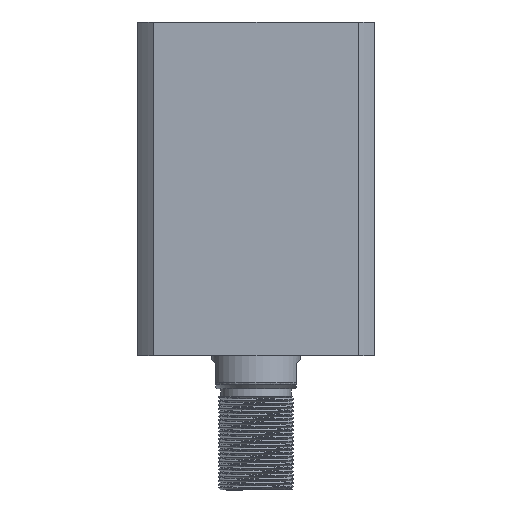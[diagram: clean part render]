
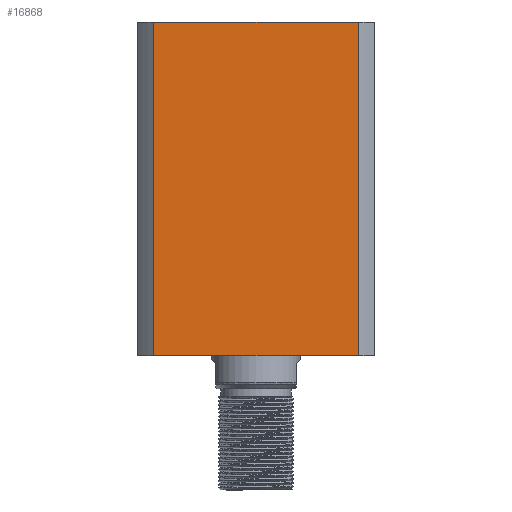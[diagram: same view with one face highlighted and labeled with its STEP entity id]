
A CAD part, front view. The second image highlights one B-rep face of the part: STEP entity #16868.
In plain terms, the highlighted planar face has unit normal (0, -1, 0) as drawn and (0, 1, 0) by its records, which use the part's own axes.
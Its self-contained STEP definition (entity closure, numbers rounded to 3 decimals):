
#1178 = CARTESIAN_POINT ( 'NONE',  ( 40.435, 47., 132. ) ) ;
#2001 = EDGE_CURVE ( 'NONE', #12676, #8303, #16113, .T. ) ;
#3441 = AXIS2_PLACEMENT_3D ( 'NONE', #19428, #14494, #4018 ) ;
#4018 = DIRECTION ( 'NONE',  ( 0., 0., -1. ) ) ;
#4598 = LINE ( 'NONE', #5220, #17903 ) ;
#5067 = ORIENTED_EDGE ( 'NONE', *, *, #8946, .F. ) ;
#5220 = CARTESIAN_POINT ( 'NONE',  ( -40.435, 47., -2868. ) ) ;
#6053 = VECTOR ( 'NONE', #20727, 1000. ) ;
#7130 = LINE ( 'NONE', #10428, #6053 ) ;
#8129 = CARTESIAN_POINT ( 'NONE',  ( -40.435, 47., 132. ) ) ;
#8303 = VERTEX_POINT ( 'NONE', #1178 ) ;
#8946 = EDGE_CURVE ( 'NONE', #9330, #16937, #4598, .T. ) ;
#9158 = PLANE ( 'NONE',  #3441 ) ;
#9330 = VERTEX_POINT ( 'NONE', #8129 ) ;
#9656 = ORIENTED_EDGE ( 'NONE', *, *, #2001, .F. ) ;
#10428 = CARTESIAN_POINT ( 'NONE',  ( -47., 47., 132. ) ) ;
#11534 = VECTOR ( 'NONE', #17709, 1000. ) ;
#12676 = VERTEX_POINT ( 'NONE', #15831 ) ;
#12963 = ORIENTED_EDGE ( 'NONE', *, *, #15623, .T. ) ;
#12974 = CARTESIAN_POINT ( 'NONE',  ( -47., 47., 0. ) ) ;
#14494 = DIRECTION ( 'NONE',  ( 0., -1., 0. ) ) ;
#14716 = DIRECTION ( 'NONE',  ( -1., 0., 0. ) ) ;
#14815 = LINE ( 'NONE', #12974, #18809 ) ;
#15623 = EDGE_CURVE ( 'NONE', #12676, #16937, #14815, .T. ) ;
#15715 = DIRECTION ( 'NONE',  ( 0., 0., -1. ) ) ;
#15831 = CARTESIAN_POINT ( 'NONE',  ( 40.435, 47., 0. ) ) ;
#16113 = LINE ( 'NONE', #17246, #11534 ) ;
#16868 = ADVANCED_FACE ( 'NONE', ( #17452 ), #9158, .F. ) ;
#16937 = VERTEX_POINT ( 'NONE', #21358 ) ;
#17246 = CARTESIAN_POINT ( 'NONE',  ( 40.435, 47., -2868. ) ) ;
#17448 = EDGE_CURVE ( 'NONE', #8303, #9330, #7130, .T. ) ;
#17452 = FACE_OUTER_BOUND ( 'NONE', #18081, .T. ) ;
#17709 = DIRECTION ( 'NONE',  ( 0., 0., 1. ) ) ;
#17903 = VECTOR ( 'NONE', #15715, 1000. ) ;
#18081 = EDGE_LOOP ( 'NONE', ( #9656, #12963, #5067, #20174 ) ) ;
#18809 = VECTOR ( 'NONE', #14716, 1000. ) ;
#19428 = CARTESIAN_POINT ( 'NONE',  ( -47., 47., 132. ) ) ;
#20174 = ORIENTED_EDGE ( 'NONE', *, *, #17448, .F. ) ;
#20727 = DIRECTION ( 'NONE',  ( -1., 0., 0. ) ) ;
#21358 = CARTESIAN_POINT ( 'NONE',  ( -40.435, 47., 0. ) ) ;
